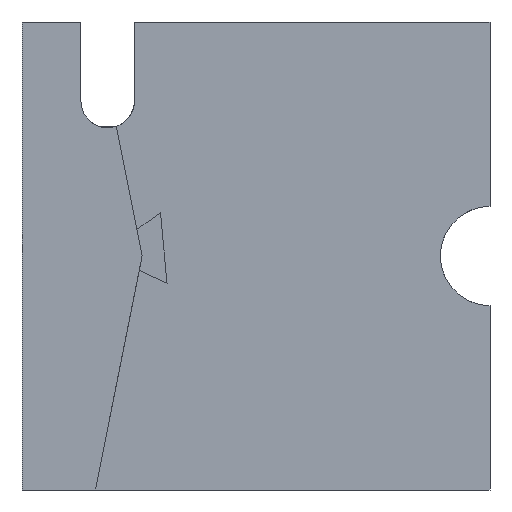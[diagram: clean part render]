
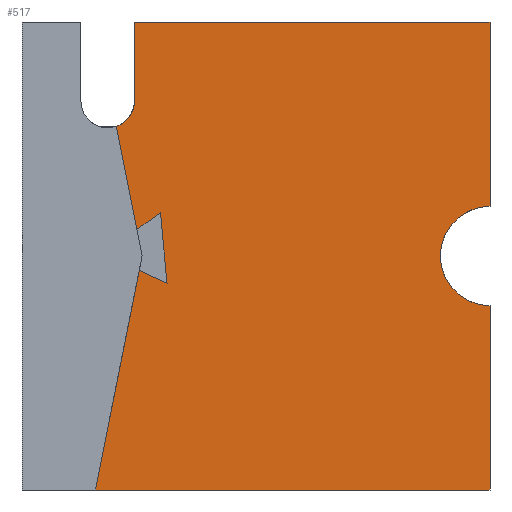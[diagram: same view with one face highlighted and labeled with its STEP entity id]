
A CAD part, left-side view. The second image highlights one B-rep face of the part: STEP entity #517.
In plain terms, the highlighted planar face has unit normal (-1, 0, 0).
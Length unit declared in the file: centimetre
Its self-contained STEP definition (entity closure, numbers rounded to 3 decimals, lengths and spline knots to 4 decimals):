
#56 = CARTESIAN_POINT ( 'NONE',  ( 0., 0., 393.941 ) ) ;
#71 = VERTEX_POINT ( 'NONE', #355 ) ;
#74 = LINE ( 'NONE', #1196, #106 ) ;
#75 = LINE ( 'NONE', #644, #1034 ) ;
#77 = ORIENTED_EDGE ( 'NONE', *, *, #371, .F. ) ;
#88 = VECTOR ( 'NONE', #820, 100. ) ;
#93 = EDGE_CURVE ( 'NONE', #948, #137, #453, .T. ) ;
#106 = VECTOR ( 'NONE', #356, 100. ) ;
#115 = VERTEX_POINT ( 'NONE', #445 ) ;
#135 = CARTESIAN_POINT ( 'NONE',  ( 0., 1000., 1000. ) ) ;
#137 = VERTEX_POINT ( 'NONE', #1148 ) ;
#139 = VECTOR ( 'NONE', #771, 100. ) ;
#149 = ORIENTED_EDGE ( 'NONE', *, *, #178, .F. ) ;
#155 = ORIENTED_EDGE ( 'NONE', *, *, #93, .F. ) ;
#178 = EDGE_CURVE ( 'NONE', #1112, #1027, #312, .T. ) ;
#189 = DIRECTION ( 'NONE',  ( 0., 0.093, 0.996 ) ) ;
#216 = ORIENTED_EDGE ( 'NONE', *, *, #848, .F. ) ;
#221 = DIRECTION ( 'NONE',  ( 0., 0., 1. ) ) ;
#222 = AXIS2_PLACEMENT_3D ( 'NONE', #966, #305, #221 ) ;
#229 = CARTESIAN_POINT ( 'NONE',  ( 0., 0., 1000. ) ) ;
#234 = DIRECTION ( 'NONE',  ( -1., 0., 0. ) ) ;
#243 = CARTESIAN_POINT ( 'NONE',  ( 0., 816.9891, 830.8211 ) ) ;
#248 = CARTESIAN_POINT ( 'NONE',  ( 0., 754.7028, 556.5452 ) ) ;
#249 = ORIENTED_EDGE ( 'NONE', *, *, #1163, .F. ) ;
#257 = CARTESIAN_POINT ( 'NONE',  ( 0., 0., 1000. ) ) ;
#260 = VERTEX_POINT ( 'NONE', #56 ) ;
#268 = VERTEX_POINT ( 'NONE', #441 ) ;
#282 = AXIS2_PLACEMENT_3D ( 'NONE', #243, #234, #422 ) ;
#303 = DIRECTION ( 'NONE',  ( 1., 0., 0. ) ) ;
#305 = DIRECTION ( 'NONE',  ( -1., 0., 0. ) ) ;
#312 = LINE ( 'NONE', #958, #139 ) ;
#325 = LINE ( 'NONE', #229, #1180 ) ;
#337 = EDGE_CURVE ( 'NONE', #71, #268, #417, .T. ) ;
#345 = VERTEX_POINT ( 'NONE', #1185 ) ;
#355 = CARTESIAN_POINT ( 'NONE',  ( 0., 749.5725, 469.2027 ) ) ;
#356 = DIRECTION ( 'NONE',  ( 0., 0.816, -0.578 ) ) ;
#371 = EDGE_CURVE ( 'NONE', #268, #115, #1082, .T. ) ;
#417 = LINE ( 'NONE', #608, #1070 ) ;
#422 = DIRECTION ( 'NONE',  ( 0., 0., 1. ) ) ;
#440 = EDGE_CURVE ( 'NONE', #976, #345, #75, .T. ) ;
#441 = CARTESIAN_POINT ( 'NONE',  ( 0., 690.1212, 441.9092 ) ) ;
#445 = CARTESIAN_POINT ( 'NONE',  ( 0., 704.1862, 592.3666 ) ) ;
#453 = LINE ( 'NONE', #1205, #951 ) ;
#455 = CARTESIAN_POINT ( 'NONE',  ( 0., 690.1212, 441.9092 ) ) ;
#486 = PLANE ( 'NONE',  #811 ) ;
#506 = ORIENTED_EDGE ( 'NONE', *, *, #601, .F. ) ;
#517 = ADVANCED_FACE ( 'NONE', ( #1138 ), #486, .F. ) ;
#536 = ORIENTED_EDGE ( 'NONE', *, *, #985, .F. ) ;
#558 = CIRCLE ( 'NONE', #282, 56.9962 ) ;
#562 = DIRECTION ( 'NONE',  ( 0., 0., -1. ) ) ;
#601 = EDGE_CURVE ( 'NONE', #345, #260, #973, .T. ) ;
#606 = ORIENTED_EDGE ( 'NONE', *, *, #337, .F. ) ;
#608 = CARTESIAN_POINT ( 'NONE',  ( 0., 827.4537, 504.9572 ) ) ;
#613 = LINE ( 'NONE', #135, #88 ) ;
#617 = DIRECTION ( 'NONE',  ( 0., -0.195, 0.981 ) ) ;
#644 = CARTESIAN_POINT ( 'NONE',  ( 0., 0., 1000. ) ) ;
#667 = CARTESIAN_POINT ( 'NONE',  ( 0., 798.6028, 776.8721 ) ) ;
#681 = DIRECTION ( 'NONE',  ( 0., 0., -1. ) ) ;
#720 = CARTESIAN_POINT ( 'NONE',  ( 0., 743.4362, 500. ) ) ;
#724 = ORIENTED_EDGE ( 'NONE', *, *, #1157, .T. ) ;
#757 = CARTESIAN_POINT ( 'NONE',  ( 0., 759.993, 830.8211 ) ) ;
#771 = DIRECTION ( 'NONE',  ( 0., 0.195, 0.981 ) ) ;
#788 = EDGE_CURVE ( 'NONE', #260, #876, #325, .T. ) ;
#798 = VECTOR ( 'NONE', #617, 100. ) ;
#802 = CARTESIAN_POINT ( 'NONE',  ( 0., 1000., 0. ) ) ;
#803 = EDGE_CURVE ( 'NONE', #137, #976, #613, .T. ) ;
#808 = EDGE_LOOP ( 'NONE', ( #149, #536, #77, #606, #249, #724, #1111, #506, #907, #891, #155, #216 ) ) ;
#811 = AXIS2_PLACEMENT_3D ( 'NONE', #858, #303, #681 ) ;
#815 = DIRECTION ( 'NONE',  ( 0., -0.909, -0.417 ) ) ;
#820 = DIRECTION ( 'NONE',  ( 0., -1., 0. ) ) ;
#848 = EDGE_CURVE ( 'NONE', #1027, #948, #558, .T. ) ;
#858 = CARTESIAN_POINT ( 'NONE',  ( 0., 1000., 1000. ) ) ;
#876 = VERTEX_POINT ( 'NONE', #1023 ) ;
#891 = ORIENTED_EDGE ( 'NONE', *, *, #803, .F. ) ;
#895 = LINE ( 'NONE', #802, #1135 ) ;
#898 = DIRECTION ( 'NONE',  ( 0., 0., -1. ) ) ;
#907 = ORIENTED_EDGE ( 'NONE', *, *, #440, .F. ) ;
#908 = VERTEX_POINT ( 'NONE', #1033 ) ;
#910 = LINE ( 'NONE', #720, #798 ) ;
#948 = VERTEX_POINT ( 'NONE', #757 ) ;
#951 = VECTOR ( 'NONE', #1100, 100. ) ;
#958 = CARTESIAN_POINT ( 'NONE',  ( 0., 843.0609, 1000. ) ) ;
#966 = CARTESIAN_POINT ( 'NONE',  ( 0., 0., 500. ) ) ;
#973 = CIRCLE ( 'NONE', #222, 106.059 ) ;
#976 = VERTEX_POINT ( 'NONE', #257 ) ;
#985 = EDGE_CURVE ( 'NONE', #115, #1112, #74, .T. ) ;
#1014 = VECTOR ( 'NONE', #189, 100. ) ;
#1023 = CARTESIAN_POINT ( 'NONE',  ( 0., 0., 0. ) ) ;
#1027 = VERTEX_POINT ( 'NONE', #667 ) ;
#1033 = CARTESIAN_POINT ( 'NONE',  ( 0., 843.0609, 0. ) ) ;
#1034 = VECTOR ( 'NONE', #562, 100. ) ;
#1070 = VECTOR ( 'NONE', #815, 100. ) ;
#1082 = LINE ( 'NONE', #455, #1014 ) ;
#1093 = DIRECTION ( 'NONE',  ( 0., -1., 0. ) ) ;
#1100 = DIRECTION ( 'NONE',  ( 0., 0., 1. ) ) ;
#1111 = ORIENTED_EDGE ( 'NONE', *, *, #788, .F. ) ;
#1112 = VERTEX_POINT ( 'NONE', #248 ) ;
#1135 = VECTOR ( 'NONE', #1093, 100. ) ;
#1138 = FACE_OUTER_BOUND ( 'NONE', #808, .T. ) ;
#1148 = CARTESIAN_POINT ( 'NONE',  ( 0., 759.993, 1000. ) ) ;
#1157 = EDGE_CURVE ( 'NONE', #908, #876, #895, .T. ) ;
#1163 = EDGE_CURVE ( 'NONE', #908, #71, #910, .T. ) ;
#1180 = VECTOR ( 'NONE', #898, 100. ) ;
#1185 = CARTESIAN_POINT ( 'NONE',  ( 0., 0., 606.059 ) ) ;
#1196 = CARTESIAN_POINT ( 'NONE',  ( 0., 704.1862, 592.3666 ) ) ;
#1205 = CARTESIAN_POINT ( 'NONE',  ( 0., 759.993, 830.8211 ) ) ;
